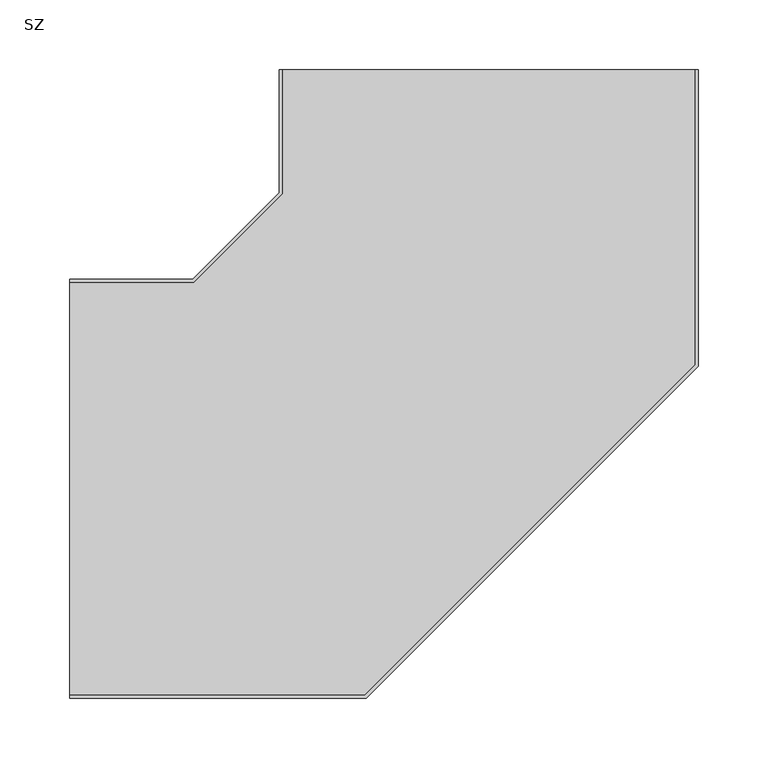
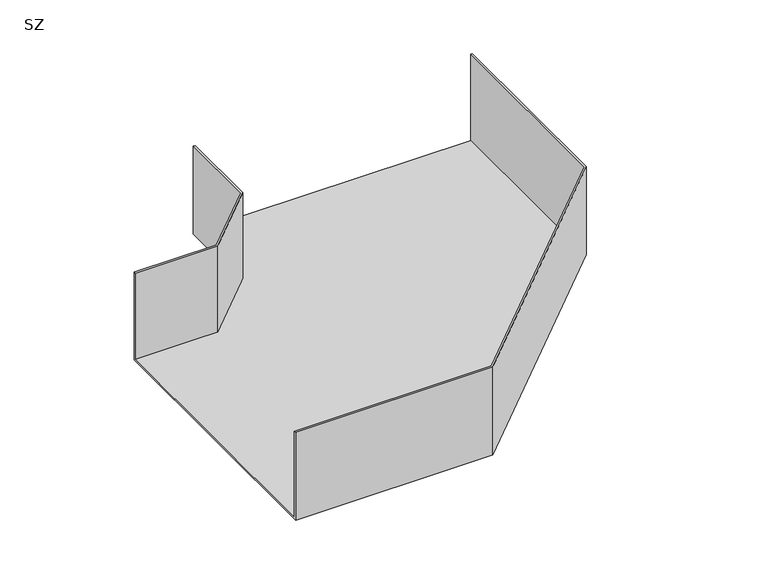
"""IFC4 building model written with IfcOpenShell, lengths in millimetres: cable carrier fitting geometry, IEK_Листовой_Поворот : SZ."""

from ifc_helpers import new_model, si_unit, origin, place, context, project, spatial, faceted_brep, source, transform, mapped, element, save


def sz_73ba9979(model_context):
    return source(origin(), model_context, "Body", "Brep", [
        faceted_brep([(-300.0, 150.0, -50.0), (-300.0, -150.0, -50.0), (-300.0, -150.0, 50.0), (-300.0, -148.0, 50.0), (-300.0, -148.0, -48.0), (-300.0, 148.0, -48.0), (-300.0, 148.0, 50.0), (-300.0, 150.0, 50.0), (-212.1320344, 150.0, -50.0), (-150.0, 212.1320344, -50.0), (-150.0, 300.0, -50.0), (150.0, 300.0, -50.0), (150.0, 87.8679656, -50.0), (-87.8679656, -150.0, -50.0), (-87.8679656, -150.0, 50.0), (150.0, 87.8679656, 50.0), (150.0, 300.0, 50.0), (148.0, 300.0, 50.0), (148.0, 88.6963928, 50.0), (-88.6963928, -148.0, 50.0), (-88.6963928, -148.0, -48.0), (148.0, 88.6963928, -48.0), (148.0, 300.0, -48.0), (-148.0, 300.0, -48.0), (-148.0, 211.3036072, -48.0), (-211.3036072, 148.0, -48.0), (-211.3036072, 148.0, 50.0), (-148.0, 211.3036072, 50.0), (-148.0, 300.0, 50.0), (-150.0, 300.0, 50.0), (-150.0, 212.1320344, 50.0), (-212.1320344, 150.0, 50.0)], [[[0, 1, 2, 3, 4, 5, 6, 7]], [[1, 0, 8, 9, 10, 11, 12, 13]], [[2, 1, 13, 14]], [[3, 2, 14, 15, 16, 17, 18, 19]], [[4, 3, 19, 20]], [[5, 4, 20, 21, 22, 23, 24, 25]], [[6, 5, 25, 26]], [[7, 6, 26, 27, 28, 29, 30, 31]], [[0, 7, 31, 8]], [[14, 13, 12, 15]], [[20, 19, 18, 21]], [[26, 25, 24, 27]], [[8, 31, 30, 9]], [[10, 29, 28, 23, 22, 17, 16, 11]], [[15, 12, 11, 16]], [[21, 18, 17, 22]], [[27, 24, 23, 28]], [[9, 30, 29, 10]]]),
    ])


if __name__ == "__main__":
    model = new_model("IFC4")
    model_context = context("Model", 3, world=origin())
    ifc_project = project(units=[si_unit("LENGTHUNIT", "METRE", prefix="MILLI")], contexts=[model_context])
    site = spatial("IfcSite", under=ifc_project)
    building = spatial("IfcBuilding", under=site)
    placement = place(None, origin())
    sz_shape = sz_73ba9979(model_context)
    element("IfcCableCarrierFitting", 1, ObjectType="IEK_Листовой_Поворот : SZ", at=placement, inside=building, context=model_context, shape_type="MappedRepresentation", body=[
        mapped(sz_shape, transform((0.0, 0.0, 0.0), x_axis=(1.0, 0.0, 0.0), y_axis=(0.0, 1.0, 0.0), z_axis=(0.0, 0.0, 1.0))),
    ])
    save(model, "model.ifc")
